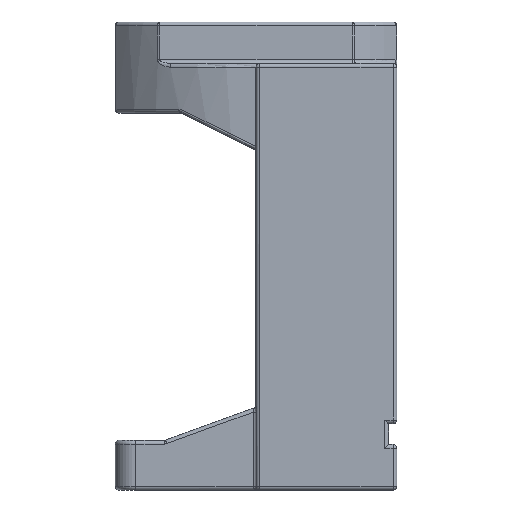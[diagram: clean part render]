
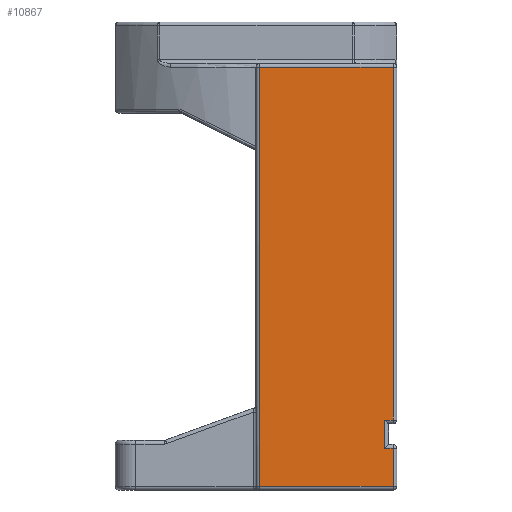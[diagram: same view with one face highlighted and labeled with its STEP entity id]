
A CAD part, left-side view. The second image highlights one B-rep face of the part: STEP entity #10867.
In plain terms, the highlighted planar face has unit normal (-1, 0, 0).
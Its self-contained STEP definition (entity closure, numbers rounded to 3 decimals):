
#69 = EDGE_LOOP ( 'NONE', ( #751, #753, #752, #754, #755, #756, #757, #758 ) ) ;
#751 = ORIENTED_EDGE ( 'NONE', *, *, #5350, .T. ) ;
#752 = ORIENTED_EDGE ( 'NONE', *, *, #5483, .T. ) ;
#753 = ORIENTED_EDGE ( 'NONE', *, *, #5352, .T. ) ;
#754 = ORIENTED_EDGE ( 'NONE', *, *, #5347, .T. ) ;
#755 = ORIENTED_EDGE ( 'NONE', *, *, #5345, .T. ) ;
#756 = ORIENTED_EDGE ( 'NONE', *, *, #5348, .T. ) ;
#757 = ORIENTED_EDGE ( 'NONE', *, *, #5343, .T. ) ;
#758 = ORIENTED_EDGE ( 'NONE', *, *, #5351, .T. ) ;
#2459 = VERTEX_POINT ( 'NONE', #6695 ) ;
#2463 = VERTEX_POINT ( 'NONE', #6699 ) ;
#2464 = VERTEX_POINT ( 'NONE', #6700 ) ;
#2465 = VERTEX_POINT ( 'NONE', #6701 ) ;
#2467 = VERTEX_POINT ( 'NONE', #6703 ) ;
#2468 = VERTEX_POINT ( 'NONE', #6704 ) ;
#2469 = VERTEX_POINT ( 'NONE', #6705 ) ;
#2470 = VERTEX_POINT ( 'NONE', #6706 ) ;
#3895 = LINE ( 'NONE', #7645, #8315 ) ;
#3896 = LINE ( 'NONE', #7650, #8319 ) ;
#3897 = LINE ( 'NONE', #7656, #8320 ) ;
#3898 = LINE ( 'NONE', #7658, #8321 ) ;
#3900 = LINE ( 'NONE', #7662, #8324 ) ;
#3901 = LINE ( 'NONE', #7664, #8325 ) ;
#3902 = LINE ( 'NONE', #7666, #8327 ) ;
#3950 = LINE ( 'NONE', #8125, #8480 ) ;
#4074 = FACE_OUTER_BOUND ( 'NONE', #69, .T. ) ;
#5343 = EDGE_CURVE ( 'NONE', #2463, #2459, #3895, .T. ) ;
#5345 = EDGE_CURVE ( 'NONE', #2465, #2464, #3896, .T. ) ;
#5347 = EDGE_CURVE ( 'NONE', #2467, #2465, #3897, .T. ) ;
#5348 = EDGE_CURVE ( 'NONE', #2464, #2463, #3898, .T. ) ;
#5350 = EDGE_CURVE ( 'NONE', #2470, #2469, #3900, .T. ) ;
#5351 = EDGE_CURVE ( 'NONE', #2459, #2470, #3901, .T. ) ;
#5352 = EDGE_CURVE ( 'NONE', #2469, #2468, #3902, .T. ) ;
#5483 = EDGE_CURVE ( 'NONE', #2468, #2467, #3950, .T. ) ;
#6695 = CARTESIAN_POINT ( 'NONE',  ( -44., -31.1, 4.1 ) ) ;
#6699 = CARTESIAN_POINT ( 'NONE',  ( -44., -33.1, 4.1 ) ) ;
#6700 = CARTESIAN_POINT ( 'NONE',  ( -44., -33.1, -5.1 ) ) ;
#6701 = CARTESIAN_POINT ( 'NONE',  ( -44., -0.9, -5.1 ) ) ;
#6703 = CARTESIAN_POINT ( 'NONE',  ( -44., -0.9, 96.1 ) ) ;
#6704 = CARTESIAN_POINT ( 'NONE',  ( -44., -33.1, 96.1 ) ) ;
#6705 = CARTESIAN_POINT ( 'NONE',  ( -44., -33.1, 10.9 ) ) ;
#6706 = CARTESIAN_POINT ( 'NONE',  ( -44., -31.1, 10.9 ) ) ;
#7645 = CARTESIAN_POINT ( 'NONE',  ( -44., -34., 4.1 ) ) ;
#7646 = DIRECTION ( 'NONE',  ( 0., 1., 0. ) ) ;
#7650 = CARTESIAN_POINT ( 'NONE',  ( -44., -34., -5.1 ) ) ;
#7651 = DIRECTION ( 'NONE',  ( 0., -1., 0. ) ) ;
#7656 = CARTESIAN_POINT ( 'NONE',  ( -44., -0.9, 97. ) ) ;
#7657 = DIRECTION ( 'NONE',  ( 0., 0., -1. ) ) ;
#7658 = CARTESIAN_POINT ( 'NONE',  ( -44., -33.1, 97. ) ) ;
#7659 = DIRECTION ( 'NONE',  ( 0., 0., 1. ) ) ;
#7662 = CARTESIAN_POINT ( 'NONE',  ( -44., -34., 10.9 ) ) ;
#7663 = DIRECTION ( 'NONE',  ( 0., -1., 0. ) ) ;
#7664 = CARTESIAN_POINT ( 'NONE',  ( -44., -31.1, 97. ) ) ;
#7665 = DIRECTION ( 'NONE',  ( 0., 0., 1. ) ) ;
#7666 = CARTESIAN_POINT ( 'NONE',  ( -44., -33.1, 97. ) ) ;
#7667 = DIRECTION ( 'NONE',  ( 0., 0., 1. ) ) ;
#8125 = CARTESIAN_POINT ( 'NONE',  ( -44., 0., 96.1 ) ) ;
#8126 = DIRECTION ( 'NONE',  ( 0., 1., 0. ) ) ;
#8315 = VECTOR ( 'NONE', #7646, 1000. ) ;
#8319 = VECTOR ( 'NONE', #7651, 1000. ) ;
#8320 = VECTOR ( 'NONE', #7657, 1000. ) ;
#8321 = VECTOR ( 'NONE', #7659, 1000. ) ;
#8324 = VECTOR ( 'NONE', #7663, 1000. ) ;
#8325 = VECTOR ( 'NONE', #7665, 1000. ) ;
#8327 = VECTOR ( 'NONE', #7667, 1000. ) ;
#8480 = VECTOR ( 'NONE', #8126, 1000. ) ;
#10008 = PLANE ( 'NONE',  #10298 ) ;
#10009 = CARTESIAN_POINT ( 'NONE',  ( -44., -34., 97. ) ) ;
#10010 = DIRECTION ( 'NONE',  ( 1., 0., 0. ) ) ;
#10011 = DIRECTION ( 'NONE',  ( 0., -1., 0. ) ) ;
#10298 = AXIS2_PLACEMENT_3D ( 'NONE', #10009, #10010, #10011 ) ;
#10867 = ADVANCED_FACE ( 'NONE', ( #4074 ), #10008, .F. ) ;
